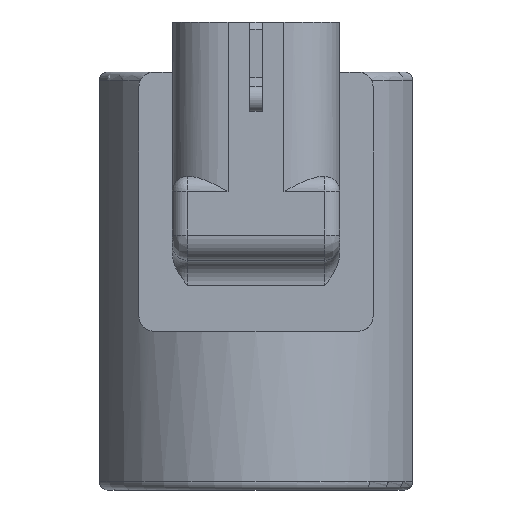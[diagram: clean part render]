
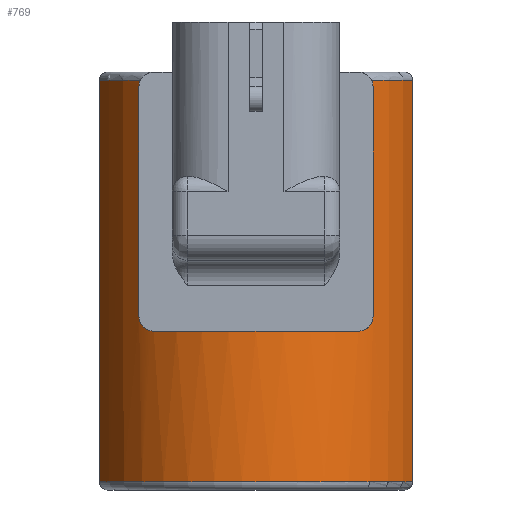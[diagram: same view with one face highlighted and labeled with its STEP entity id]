
A CAD part, left-side view. The second image highlights one B-rep face of the part: STEP entity #769.
In plain terms, the highlighted cylindrical face has radius 19.5 mm (diameter 39 mm), a partial arc.
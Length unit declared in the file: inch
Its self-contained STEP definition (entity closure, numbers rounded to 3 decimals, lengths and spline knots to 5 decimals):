
#233=CARTESIAN_POINT('',(6.36466,3.59283,-2.88976));
#234=VERTEX_POINT('',#233);
#249=CARTESIAN_POINT('',(6.36466,3.59283,-1.0));
#250=VERTEX_POINT('',#249);
#257=CARTESIAN_POINT('',(6.36466,3.59283,-1.0));
#258=DIRECTION('',(0.0,0.0,-1.0));
#259=VECTOR('',#258,1.88976);
#260=LINE('',#257,#259);
#261=EDGE_CURVE('',#250,#234,#260,.T.);
#284=CARTESIAN_POINT('',(6.03435,3.78649,-1.0));
#285=VERTEX_POINT('',#284);
#297=CARTESIAN_POINT('',(6.57553,4.33102,-1.0));
#298=DIRECTION('',(0.0,0.0,1.0));
#299=DIRECTION('',(-1.0,0.0,0.0));
#300=AXIS2_PLACEMENT_3D('',#297,#298,#299);
#301=CIRCLE('',#300,0.76772);
#302=EDGE_CURVE('',#285,#250,#301,.T.);
#417=CARTESIAN_POINT('',(6.36466,5.06921,-1.0));
#418=VERTEX_POINT('',#417);
#504=CARTESIAN_POINT('',(6.36466,5.06921,-2.88976));
#505=VERTEX_POINT('',#504);
#514=CARTESIAN_POINT('',(6.36466,5.06921,-1.0));
#515=DIRECTION('',(0.0,0.0,-1.0));
#516=VECTOR('',#515,1.88976);
#517=LINE('',#514,#516);
#518=EDGE_CURVE('',#418,#505,#517,.T.);
#627=CARTESIAN_POINT('',(6.57553,4.33102,-2.88976));
#628=DIRECTION('',(0.0,0.0,-1.0));
#629=DIRECTION('',(-1.0,0.0,0.0));
#630=AXIS2_PLACEMENT_3D('',#627,#628,#629);
#631=CIRCLE('',#630,0.76772);
#632=EDGE_CURVE('',#234,#505,#631,.T.);
#666=CARTESIAN_POINT('',(6.57553,4.33102,-0.96063));
#667=DIRECTION('',(0.0,0.0,-1.0));
#668=DIRECTION('',(-1.0,0.0,0.0));
#669=AXIS2_PLACEMENT_3D('',#666,#667,#668);
#670=CYLINDRICAL_SURFACE('',#669,0.76772);
#671=CARTESIAN_POINT('',(6.04112,3.77984,-1.02953));
#672=VERTEX_POINT('',#671);
#673=CARTESIAN_POINT('',(6.03435,3.78649,-1.));
#674=CARTESIAN_POINT('',(6.03498,3.78586,-1.00133));
#675=CARTESIAN_POINT('',(6.03558,3.78527,-1.00268));
#676=CARTESIAN_POINT('',(6.03773,3.78314,-1.00802));
#677=CARTESIAN_POINT('',(6.039,3.78191,-1.01222));
#678=CARTESIAN_POINT('',(6.04069,3.78026,-1.0208));
#679=CARTESIAN_POINT('',(6.04112,3.77984,-1.0252));
#680=CARTESIAN_POINT('',(6.04112,3.77984,-1.02953));
#681=B_SPLINE_CURVE_WITH_KNOTS('',3,(#673,#674,#675,#676,#677,#678,#679,#680),.UNSPECIFIED.,.F.,.U.,(4,2,2,4),(-0.77574,-0.66013,-0.33006,0.0),.UNSPECIFIED.);
#682=EDGE_CURVE('',#285,#672,#681,.T.);
#683=ORIENTED_EDGE('',*,*,#682,.T.);
#684=CARTESIAN_POINT('',(6.04112,3.77984,-2.11221));
#685=VERTEX_POINT('',#684);
#686=CARTESIAN_POINT('',(6.04112,3.77984,-1.02953));
#687=DIRECTION('',(0.0,0.0,-1.0));
#688=VECTOR('',#687,1.08268);
#689=LINE('',#686,#688);
#690=EDGE_CURVE('',#672,#685,#689,.T.);
#691=ORIENTED_EDGE('',*,*,#690,.T.);
#692=CARTESIAN_POINT('',(5.97821,3.84874,-2.1811));
#693=VERTEX_POINT('',#692);
#694=CARTESIAN_POINT('',(6.04112,3.77984,-2.11221));
#695=CARTESIAN_POINT('',(6.04112,3.77984,-2.11654));
#696=CARTESIAN_POINT('',(6.04069,3.78026,-2.12093));
#697=CARTESIAN_POINT('',(6.039,3.78191,-2.12952));
#698=CARTESIAN_POINT('',(6.03773,3.78314,-2.13371));
#699=CARTESIAN_POINT('',(6.03295,3.78786,-2.14557));
#700=CARTESIAN_POINT('',(6.02842,3.79241,-2.15254));
#701=CARTESIAN_POINT('',(6.01738,3.80382,-2.16538));
#702=CARTESIAN_POINT('',(6.00968,3.81204,-2.17133));
#703=CARTESIAN_POINT('',(5.99379,3.82992,-2.1792));
#704=CARTESIAN_POINT('',(5.9856,3.83959,-2.1811));
#705=CARTESIAN_POINT('',(5.97821,3.84874,-2.1811));
#706=B_SPLINE_CURVE_WITH_KNOTS('',3,(#694,#695,#696,#697,#698,#699,#700,#701,#702,#703,#704,#705),.UNSPECIFIED.,.F.,.U.,(4,2,2,2,2,4),(0.0,0.33006,0.66013,1.32026,2.21635,3.11244),.UNSPECIFIED.);
#707=EDGE_CURVE('',#685,#693,#706,.T.);
#708=ORIENTED_EDGE('',*,*,#707,.T.);
#709=CARTESIAN_POINT('',(5.97821,4.81331,-2.1811));
#710=VERTEX_POINT('',#709);
#711=CARTESIAN_POINT('',(6.57553,4.33102,-2.1811));
#712=DIRECTION('',(0.0,0.0,-1.0));
#713=DIRECTION('',(-1.0,0.0,0.0));
#714=AXIS2_PLACEMENT_3D('',#711,#712,#713);
#715=CIRCLE('',#714,0.76772);
#716=EDGE_CURVE('',#693,#710,#715,.T.);
#717=ORIENTED_EDGE('',*,*,#716,.T.);
#718=CARTESIAN_POINT('',(6.04112,4.8822,-2.11221));
#719=VERTEX_POINT('',#718);
#720=CARTESIAN_POINT('',(5.97821,4.81331,-2.1811));
#721=CARTESIAN_POINT('',(5.9856,4.82246,-2.1811));
#722=CARTESIAN_POINT('',(5.99379,4.83213,-2.1792));
#723=CARTESIAN_POINT('',(6.00968,4.85001,-2.17133));
#724=CARTESIAN_POINT('',(6.01738,4.85822,-2.16538));
#725=CARTESIAN_POINT('',(6.02842,4.86964,-2.15254));
#726=CARTESIAN_POINT('',(6.03295,4.87418,-2.14557));
#727=CARTESIAN_POINT('',(6.03773,4.8789,-2.13371));
#728=CARTESIAN_POINT('',(6.039,4.88014,-2.12952));
#729=CARTESIAN_POINT('',(6.04069,4.88179,-2.12093));
#730=CARTESIAN_POINT('',(6.04112,4.8822,-2.11654));
#731=CARTESIAN_POINT('',(6.04112,4.8822,-2.11221));
#732=B_SPLINE_CURVE_WITH_KNOTS('',3,(#720,#721,#722,#723,#724,#725,#726,#727,#728,#729,#730,#731),.UNSPECIFIED.,.F.,.U.,(4,2,2,2,2,4),(-3.11244,-2.21635,-1.32026,-0.66013,-0.33006,0.0),.UNSPECIFIED.);
#733=EDGE_CURVE('',#710,#719,#732,.T.);
#734=ORIENTED_EDGE('',*,*,#733,.T.);
#735=CARTESIAN_POINT('',(6.04112,4.8822,-1.02953));
#736=VERTEX_POINT('',#735);
#737=CARTESIAN_POINT('',(6.04112,4.8822,-2.11221));
#738=DIRECTION('',(0.0,0.0,1.0));
#739=VECTOR('',#738,1.08268);
#740=LINE('',#737,#739);
#741=EDGE_CURVE('',#719,#736,#740,.T.);
#742=ORIENTED_EDGE('',*,*,#741,.T.);
#743=CARTESIAN_POINT('',(6.03435,4.87556,-1.0));
#744=VERTEX_POINT('',#743);
#745=CARTESIAN_POINT('',(6.04112,4.8822,-1.02953));
#746=CARTESIAN_POINT('',(6.04112,4.8822,-1.0252));
#747=CARTESIAN_POINT('',(6.04069,4.88179,-1.0208));
#748=CARTESIAN_POINT('',(6.039,4.88014,-1.01222));
#749=CARTESIAN_POINT('',(6.03773,4.8789,-1.00802));
#750=CARTESIAN_POINT('',(6.03558,4.87678,-1.00268));
#751=CARTESIAN_POINT('',(6.03498,4.87619,-1.00133));
#752=CARTESIAN_POINT('',(6.03435,4.87556,-1.));
#753=B_SPLINE_CURVE_WITH_KNOTS('',3,(#745,#746,#747,#748,#749,#750,#751,#752),.UNSPECIFIED.,.F.,.U.,(4,2,2,4),(0.0,0.33006,0.66013,0.77574),.UNSPECIFIED.);
#754=EDGE_CURVE('',#736,#744,#753,.T.);
#755=ORIENTED_EDGE('',*,*,#754,.T.);
#756=CARTESIAN_POINT('',(6.57553,4.33102,-1.0));
#757=DIRECTION('',(0.0,0.0,1.0));
#758=DIRECTION('',(-1.0,0.0,0.0));
#759=AXIS2_PLACEMENT_3D('',#756,#757,#758);
#760=CIRCLE('',#759,0.76772);
#761=EDGE_CURVE('',#418,#744,#760,.T.);
#762=ORIENTED_EDGE('',*,*,#761,.F.);
#763=ORIENTED_EDGE('',*,*,#518,.T.);
#764=ORIENTED_EDGE('',*,*,#632,.F.);
#765=ORIENTED_EDGE('',*,*,#261,.F.);
#766=ORIENTED_EDGE('',*,*,#302,.F.);
#767=EDGE_LOOP('',(#683,#691,#708,#717,#734,#742,#755,#762,#763,#764,#765,#766));
#768=FACE_OUTER_BOUND('',#767,.T.);
#769=ADVANCED_FACE('',(#768),#670,.T.);
